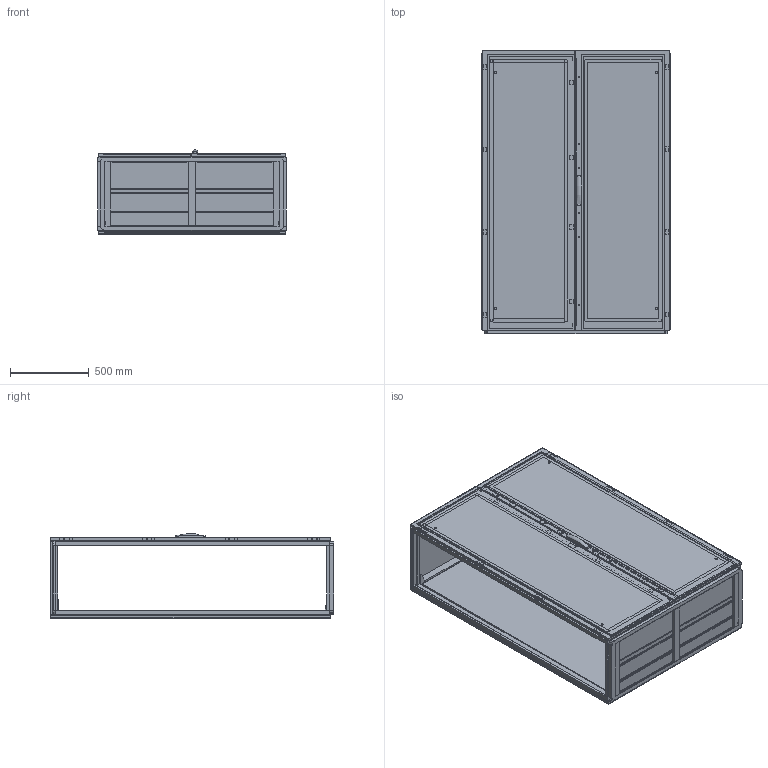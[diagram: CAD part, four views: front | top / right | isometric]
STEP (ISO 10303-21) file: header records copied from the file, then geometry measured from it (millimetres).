
FILE_DESCRIPTION(/* description */ ('STEP AP203'),/* implementation_level */ '2;1');
FILE_NAME(/* name */ 'MCD18125R5(0)',/* time_stamp */ '2024-02-27T09:56:15+01:00',/* author */ ('License CC BY-ND 4.0'),/* organization */ ('CADENAS'),/* preprocessor_version */ 'ST-DEVELOPER v19.3',/* originating_system */ 'PARTsolutions',/* authorisation */ ' ');
FILE_SCHEMA (('CONFIG_CONTROL_DESIGN'));
Length unit declared in the file: millimetre
Products named in the file (26): MCD18125R5(0); MCD18125R5_Frame; CRPK12(0)_Rear Panel Mounting Kit; CRP1812R5(0)_Rear Panel; CRPK12(0)_Rear Panel Bracket; DNMK02(0)_Hinge Right; DN1806RR5(0)_Right door; LSSDXXXX(0)_Lock; LSSD1800(0)_Espagnolette Top; LSSD1800(0)_Espagnolette Bottom; DNMK02(0)_Hinge Left; DN1806LR5(0)_Left door; LSEL1800(0)_Left Door Espagnolette; DNMK01(0)_Rod catches; CCR125R5(0)_Roof plate; LSSD1800(0)_Lock Catch; LSELXX12X(0)_Left Door Espagnolette; MPA06(0)_Mounting Plate Brackets 1; MP1812(0)_P1; MPA06(0)_Mounting Plate Brackets 2; MPA06(0)_Mounting Plate Brackets 3; MPA06(0)_Mounting Plate Brackets 4; Bottom Plate Profile_1200x500(0); CBPW1200D200(0)_Bottom Plate 3; CBP120(0)_Bottom Plate 1; CBP120(0)_Bottom Plate 2
Assembly tree (47 placements, depth 2):
  MCD18125R5(0)
    MCD18125R5_Frame
    CRPK12(0)_Rear Panel Mounting Kit  x8
    CRP1812R5(0)_Rear Panel
    CRPK12(0)_Rear Panel Bracket  x2
    DNMK02(0)_Hinge Right  x4
    DN1806RR5(0)_Right door
    LSSDXXXX(0)_Lock
    LSSD1800(0)_Espagnolette Top
    LSSD1800(0)_Espagnolette Bottom
    DNMK02(0)_Hinge Left  x4
    DN1806LR5(0)_Left door
    LSEL1800(0)_Left Door Espagnolette
    DNMK01(0)_Rod catches  x4
    CCR125R5(0)_Roof plate
    LSSD1800(0)_Lock Catch  x2
    LSELXX12X(0)_Left Door Espagnolette  x2
    MPA06(0)_Mounting Plate Brackets 1
    MP1812(0)_P1
    MPA06(0)_Mounting Plate Brackets 2
    MPA06(0)_Mounting Plate Brackets 3
    MPA06(0)_Mounting Plate Brackets 4
    Bottom Plate Profile_1200x500(0)
    CBPW1200D200(0)_Bottom Plate 3  x2
    CBP120(0)_Bottom Plate 1  x2
    CBP120(0)_Bottom Plate 2  x2
Bounding box: 1199 x 1803.5 x 534.9 mm (x, y, z)
Volume: 37678855.7 mm3; surface area: 19248192.1 mm2
Topology: 47 solids, 47 shells, 2248 faces, 6115 edges, 4035 vertices
Faces by surface type: plane 1984, cylinder 195, cone 66, sphere 2, torus 1
Full cylindrical faces by diameter (mm): 2.55 x2, 5 x26, 5.2 x2, 5.8 x2, 6 x6, 6.5 x2, 7 x6, 7.4 x4, 8 x22, 9 x2, 10 x12, 12.5 x1, 13 x3, 14 x6, 14.12 x1, 15 x4
Entity records: 52633 total; most frequent: CARTESIAN_POINT 9023, ORIENTED_EDGE 8608, DIRECTION 8047, EDGE_CURVE 4304, LINE 3887, VECTOR 3887, VERTEX_POINT 2906, AXIS2_PLACEMENT_3D 2080
